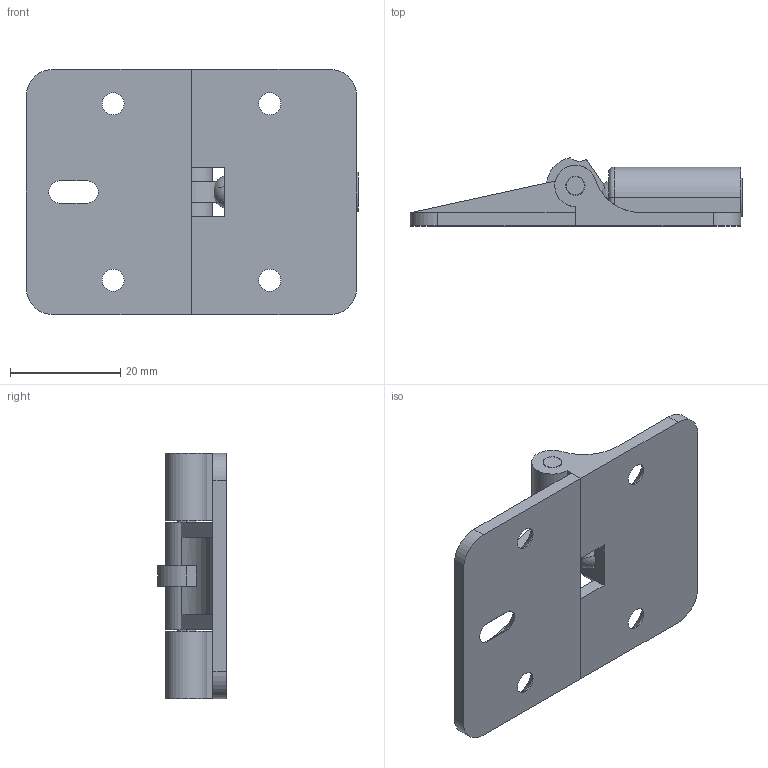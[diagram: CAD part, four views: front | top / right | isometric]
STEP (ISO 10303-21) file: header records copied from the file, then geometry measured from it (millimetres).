
FILE_DESCRIPTION (( 'STEP AP214' ), '1' );
FILE_NAME ('HL056軞蚾.STEP', '2023-06-28T06:31:21', ( 'Windows 蚚誧' ), ( '' ), 'SwSTEP 2.0', 'SolidWorks 2019', '' );
FILE_SCHEMA (( 'AUTOMOTIVE_DESIGN' ));
Length unit declared in the file: millimetre
Products named in the file (7): HL056 -1; HL056軞蚾; GB／T77-2000内六角平端紧定螺钉M8×10; HL056-2; 种赽; HL056 -3詩紩; HL056 -4 盄噤0.7粟銅
Assembly tree (6 placements, depth 2):
  HL056軞蚾
    HL056 -1
    HL056-2
    HL056 -3詩紩
    HL056 -4 盄噤0.7粟銅
    GB／T77-2000内六角平端紧定螺钉M8×10
    种赽
Bounding box: 60.2 x 12.39 x 44.5 mm (x, y, z)
Volume: 10483.3 mm3; surface area: 10240.4 mm2
Topology: 8 solids, 8 shells, 641 faces, 1839 edges, 1202 vertices
Faces by surface type: plane 532, cylinder 52, cone 46, bspline 6, sphere 4, torus 1
Entity records: 23845 total; most frequent: CARTESIAN_POINT 6363, ORIENTED_EDGE 3666, DIRECTION 3575, EDGE_CURVE 1833, LINE 1327, VECTOR 1327, VERTEX_POINT 1200, AXIS2_PLACEMENT_3D 1124
